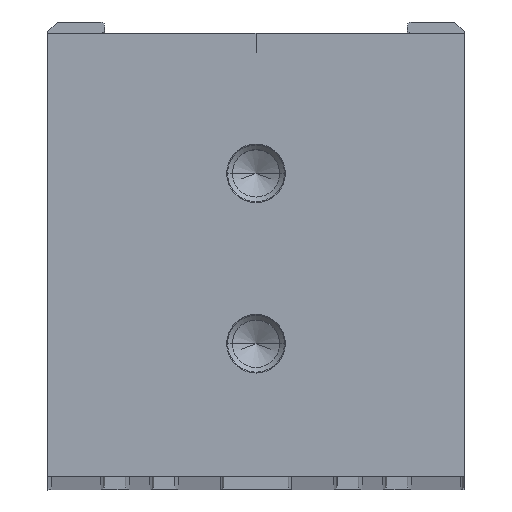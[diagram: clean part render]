
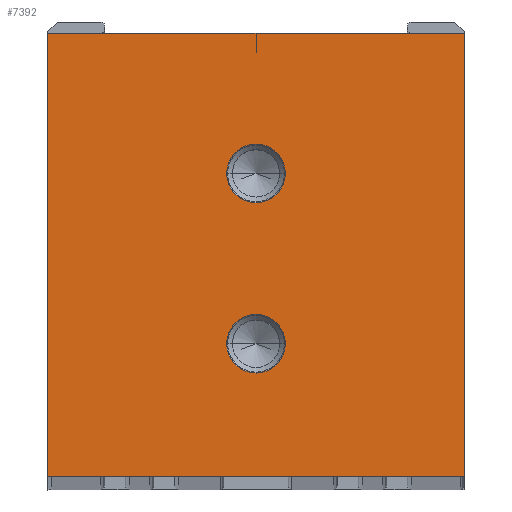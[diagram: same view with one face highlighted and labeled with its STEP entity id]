
A CAD part, top view. The second image highlights one B-rep face of the part: STEP entity #7392.
In plain terms, the highlighted planar face has unit normal (0, 0, 1).
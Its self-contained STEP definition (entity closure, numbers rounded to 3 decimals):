
#2542=DIRECTION('',(-1.,0.,0.));
#2543=VECTOR('',#2542,22.);
#2544=CARTESIAN_POINT('',(11.,11.402,203.));
#2545=LINE('',#2544,#2543);
#2546=DIRECTION('',(0.,1.,0.));
#2547=VECTOR('',#2546,23.402);
#2548=CARTESIAN_POINT('',(11.,-11.999,203.));
#2549=LINE('',#2548,#2547);
#2550=DIRECTION('',(1.,0.,0.));
#2551=VECTOR('',#2550,22.);
#2552=CARTESIAN_POINT('',(-11.,-12.007,203.));
#2553=LINE('',#2552,#2551);
#2554=DIRECTION('',(0.,-1.,0.));
#2555=VECTOR('',#2554,23.409);
#2556=CARTESIAN_POINT('',(-11.,11.402,203.));
#2557=LINE('',#2556,#2555);
#2558=CARTESIAN_POINT('',(0.,-4.996,
203.));
#2559=DIRECTION('',(0.,0.,-1.));
#2560=DIRECTION('',(-1.,0.,0.));
#2561=AXIS2_PLACEMENT_3D('',#2558,#2559,#2560);
#2563=CARTESIAN_POINT('',(0.,-4.996,203.));
#2564=DIRECTION('',(0.,0.,-1.));
#2565=DIRECTION('',(1.,0.,0.));
#2566=AXIS2_PLACEMENT_3D('',#2563,#2564,#2565);
#2568=CARTESIAN_POINT('',(0.,4.004,
203.));
#2569=DIRECTION('',(0.,0.,-1.));
#2570=DIRECTION('',(-1.,0.,0.));
#2571=AXIS2_PLACEMENT_3D('',#2568,#2569,#2570);
#2573=CARTESIAN_POINT('',(0.,4.004,
203.));
#2574=DIRECTION('',(0.,0.,-1.));
#2575=DIRECTION('',(1.,0.,0.));
#2576=AXIS2_PLACEMENT_3D('',#2573,#2574,#2575);
#2902=CARTESIAN_POINT('',(-11.,11.402,203.));
#2903=CARTESIAN_POINT('',(-11.,-12.007,203.));
#2904=VERTEX_POINT('',#2902);
#2905=VERTEX_POINT('',#2903);
#2906=CARTESIAN_POINT('',(11.,-11.999,203.));
#2907=VERTEX_POINT('',#2906);
#2908=CARTESIAN_POINT('',(11.,11.402,203.));
#2909=VERTEX_POINT('',#2908);
#3726=CARTESIAN_POINT('',(-1.55,-4.996,
203.));
#3727=CARTESIAN_POINT('',(1.55,-4.996,203.));
#3728=VERTEX_POINT('',#3726);
#3729=VERTEX_POINT('',#3727);
#3734=CARTESIAN_POINT('',(-1.55,4.004,203.));
#3735=CARTESIAN_POINT('',(1.55,4.004,203.));
#3736=VERTEX_POINT('',#3734);
#3737=VERTEX_POINT('',#3735);
#7369=CARTESIAN_POINT('',(0.,0.,203.));
#7370=DIRECTION('',(0.,0.,1.));
#7371=DIRECTION('',(1.,0.,0.));
#7372=AXIS2_PLACEMENT_3D('',#7369,#7370,#7371);
#7373=PLANE('',#7372);
#7374=ORIENTED_EDGE('',*,*,#3807,.F.);
#7375=ORIENTED_EDGE('',*,*,#3902,.F.);
#7376=ORIENTED_EDGE('',*,*,#4799,.F.);
#7377=ORIENTED_EDGE('',*,*,#4055,.F.);
#7378=EDGE_LOOP('',(#7374,#7375,#7376,#7377));
#7379=FACE_OUTER_BOUND('',#7378,.F.);
#7381=ORIENTED_EDGE('',*,*,#7380,.F.);
#7383=ORIENTED_EDGE('',*,*,#7382,.F.);
#7384=EDGE_LOOP('',(#7381,#7383));
#7385=FACE_BOUND('',#7384,.F.);
#7387=ORIENTED_EDGE('',*,*,#7386,.F.);
#7389=ORIENTED_EDGE('',*,*,#7388,.F.);
#7390=EDGE_LOOP('',(#7387,#7389));
#7391=FACE_BOUND('',#7390,.F.);
#2562=CIRCLE('',#2561,1.55);
#2567=CIRCLE('',#2566,1.55);
#2572=CIRCLE('',#2571,1.55);
#2577=CIRCLE('',#2576,1.55);
#3807=EDGE_CURVE('',#2909,#2904,#2545,.T.);
#3902=EDGE_CURVE('',#2907,#2909,#2549,.T.);
#4055=EDGE_CURVE('',#2904,#2905,#2557,.T.);
#4799=EDGE_CURVE('',#2905,#2907,#2553,.T.);
#7380=EDGE_CURVE('',#3728,#3729,#2562,.T.);
#7382=EDGE_CURVE('',#3729,#3728,#2567,.T.);
#7386=EDGE_CURVE('',#3736,#3737,#2572,.T.);
#7388=EDGE_CURVE('',#3737,#3736,#2577,.T.);
#7392=ADVANCED_FACE('',(#7379,#7385,#7391),#7373,.T.);
